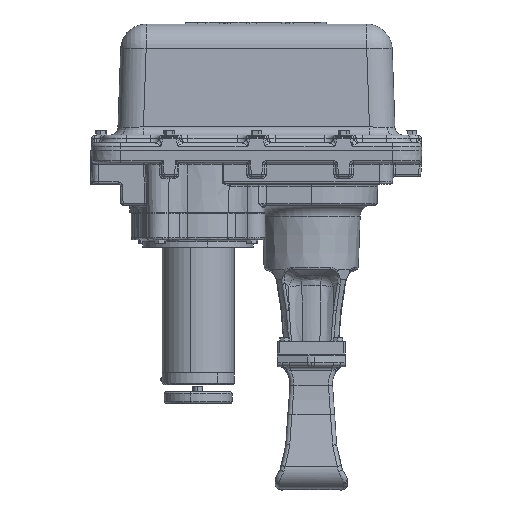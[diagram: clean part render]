
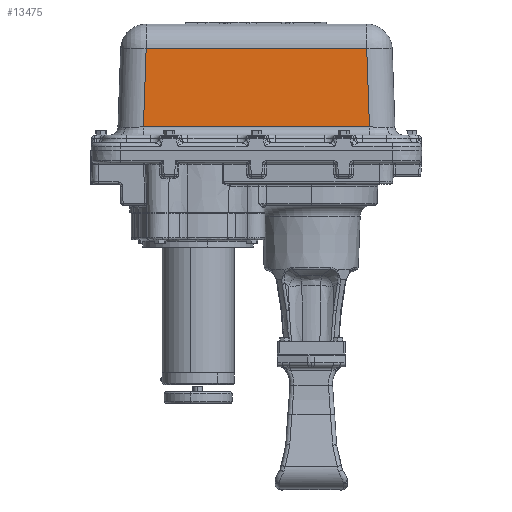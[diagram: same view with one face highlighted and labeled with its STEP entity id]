
A CAD part, front view. The second image highlights one B-rep face of the part: STEP entity #13475.
In plain terms, the highlighted planar face has unit normal (0, -0.999, 0.035).
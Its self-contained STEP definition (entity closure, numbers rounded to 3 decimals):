
#9113 = EDGE_LOOP ( 'NONE', ( #61562, #61273, #60849, #59422 ) ) ;
#13475 = ADVANCED_FACE ( 'NONE', ( #38496 ), #131721, .T. ) ;
#27706 = VERTEX_POINT ( 'NONE', #29246 ) ;
#27799 = VERTEX_POINT ( 'NONE', #29212 ) ;
#29212 = CARTESIAN_POINT ( 'NONE',  ( -9.87, -4.54, 1.107 ) ) ;
#29246 = CARTESIAN_POINT ( 'NONE',  ( 3.425, -4.54, 1.107 ) ) ;
#38496 = FACE_OUTER_BOUND ( 'NONE', #9113, .T. ) ;
#38751 = EDGE_CURVE ( 'NONE', #27706, #147303, #147792, .T. ) ;
#38781 = EDGE_CURVE ( 'NONE', #147303, #145131, #147949, .T. ) ;
#38972 = EDGE_CURVE ( 'NONE', #145131, #27799, #147878, .T. ) ;
#38989 = EDGE_CURVE ( 'NONE', #27799, #27706, #147588, .T. ) ;
#59422 = ORIENTED_EDGE ( 'NONE', *, *, #38781, .T. ) ;
#60849 = ORIENTED_EDGE ( 'NONE', *, *, #38751, .T. ) ;
#61273 = ORIENTED_EDGE ( 'NONE', *, *, #38989, .T. ) ;
#61562 = ORIENTED_EDGE ( 'NONE', *, *, #38972, .T. ) ;
#131159 = DIRECTION ( 'NONE',  ( 0., 0.035, 0.999 ) ) ;
#131514 = DIRECTION ( 'NONE',  ( 0., -0.999, 0.035 ) ) ;
#131721 = PLANE ( 'NONE',  #153683 ) ;
#132976 = CARTESIAN_POINT ( 'NONE',  ( -11.423, -4.594, -0.438 ) ) ;
#136319 = CARTESIAN_POINT ( 'NONE',  ( 3.265, -4.379, 5.708 ) ) ;
#145131 = VERTEX_POINT ( 'NONE', #148673 ) ;
#147303 = VERTEX_POINT ( 'NONE', #136319 ) ;
#147588 = LINE ( 'NONE', #161753, #148038 ) ;
#147792 = LINE ( 'NONE', #162111, #148065 ) ;
#147878 = LINE ( 'NONE', #162065, #147900 ) ;
#147900 = VECTOR ( 'NONE', #162051, 39.37 ) ;
#147949 = LINE ( 'NONE', #161781, #147962 ) ;
#147962 = VECTOR ( 'NONE', #161782, 39.37 ) ;
#148038 = VECTOR ( 'NONE', #161792, 39.37 ) ;
#148065 = VECTOR ( 'NONE', #161685, 39.37 ) ;
#148673 = CARTESIAN_POINT ( 'NONE',  ( -9.709, -4.379, 5.708 ) ) ;
#153683 = AXIS2_PLACEMENT_3D ( 'NONE', #132976, #131514, #131159 ) ;
#161685 = DIRECTION ( 'NONE',  ( -0.035, 0.035, 0.999 ) ) ;
#161753 = CARTESIAN_POINT ( 'NONE',  ( 3.442, -4.54, 1.107 ) ) ;
#161781 = CARTESIAN_POINT ( 'NONE',  ( -11.157, -4.379, 5.708 ) ) ;
#161782 = DIRECTION ( 'NONE',  ( -1., 0., 0. ) ) ;
#161792 = DIRECTION ( 'NONE',  ( 1., 0., 0. ) ) ;
#162051 = DIRECTION ( 'NONE',  ( -0.035, -0.035, -0.999 ) ) ;
#162065 = CARTESIAN_POINT ( 'NONE',  ( -9.925, -4.596, -0.49 ) ) ;
#162111 = CARTESIAN_POINT ( 'NONE',  ( 3.461, -4.576, 0.081 ) ) ;
